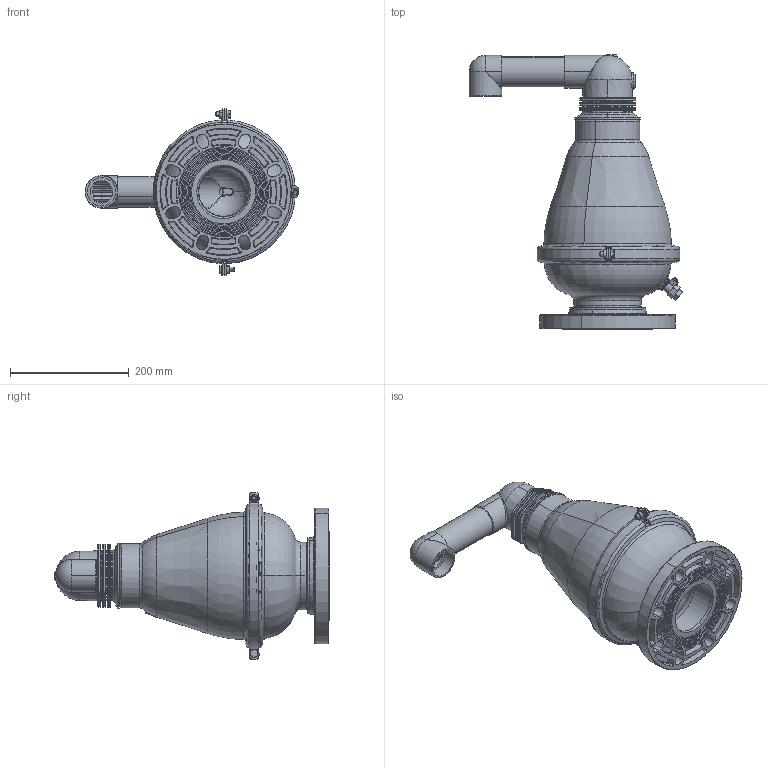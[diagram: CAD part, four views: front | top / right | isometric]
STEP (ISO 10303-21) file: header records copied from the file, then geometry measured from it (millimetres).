
FILE_DESCRIPTION (( 'STEP AP203' ), '1' );
FILE_NAME ('Assy_D-025_4_Shell.STEP', '2022-09-18T06:07:15', ( '' ), ( '' ), 'SwSTEP 2.0', 'SolidWorks 2016', '' );
FILE_SCHEMA (( 'CONFIG_CONTROL_DESIGN' ));
Length unit declared in the file: millimetre
Products named in the file (2): Assy_D-025_4_Shell
Bounding box: 359.62 x 461 x 280.5 mm (x, y, z)
Surface area: 506395.4 mm2 (no closed solid volume)
Topology: 0 solids, 23 shells, 816 faces, 2466 edges, 1634 vertices
Faces by surface type: plane 199, cylinder 191, torus 168, cone 129, bspline 124, sphere 5
Entity records: 37345 total; most frequent: CARTESIAN_POINT 16583, DIRECTION 4172, ORIENTED_EDGE 4138, EDGE_CURVE 2462, AXIS2_PLACEMENT_3D 1688, VERTEX_POINT 1634, CIRCLE 994, EDGE_LOOP 908
